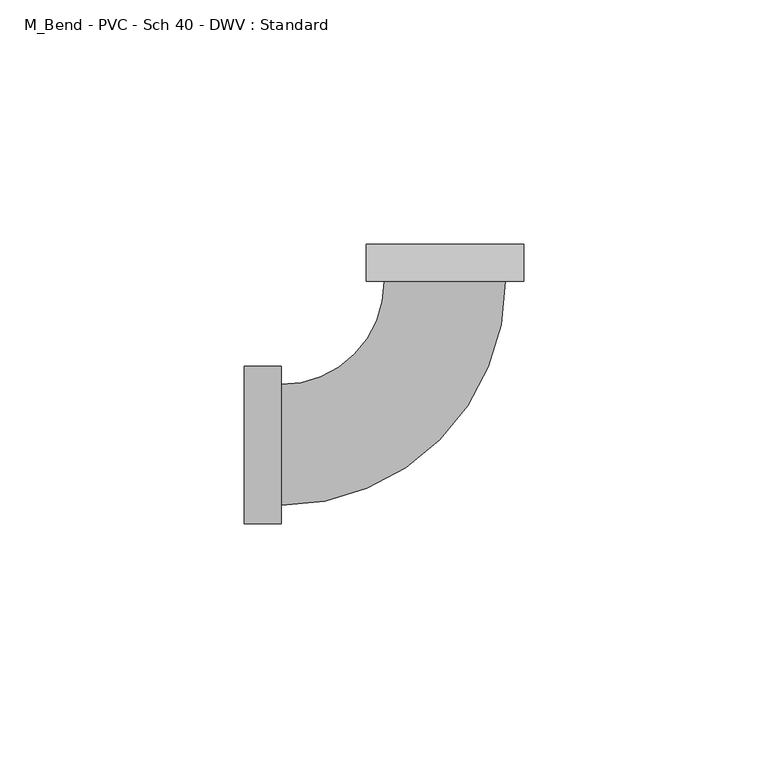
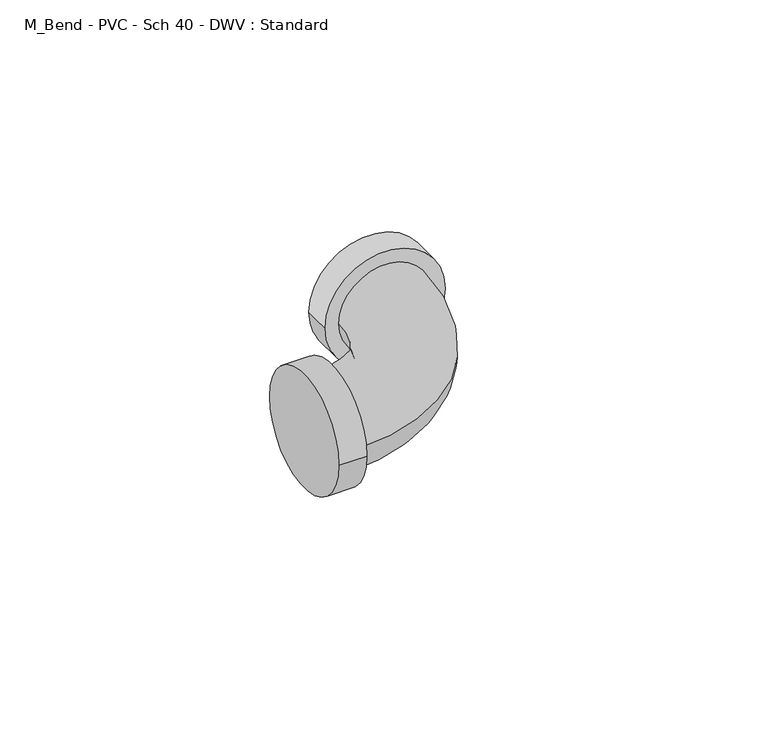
"""IFC4 building model written with IfcOpenShell, lengths in millimetres: pipe fitting geometry, M_Bend - PVC - Sch 40 - DWV : Standard."""

from ifc_helpers import new_model, si_unit, point, frame, origin, place, context, project, spatial, circle_curve, ellipse_curve, trimmed, source, transform, mapped, element, save
from ifc_brep_helpers import plane_surface, cylinder_surface, revolved_surface, advanced_brep


def m_bend_pvc_sch_40_dwv_standard_6ee9e5fe(model_context):
    return source(origin(), model_context, "Body", "AdvancedBrep", [
        advanced_brep(
        [(-41.0140625, -16.0871094, 0.0), (-41.0140625, 16.0871094, 0.0), (-33.5140625, -16.0871094, 0.0), (-33.5140625, 16.0871094, 0.0), (-33.5140625, -12.3640625, 0.0), (-33.5140625, 12.3640625, 0.0), (-12.3651423, 33.5136641, 0.0), (12.3629827, 33.5144608, 0.0), (16.0860296, 33.5145808, 0.0), (-16.0881892, 33.5135442, 0.0), (16.0857879, 41.0145808, 0.0), (-16.0884308, 41.0135442, 0.0)],
        [
            (0, 1, circle_curve(frame((-41.0140625, 0.0, 0.0), z_axis=(-1.0, 0.0, 0.0), x_axis=(0.0, 1.0, 0.0)), 16.0871094)),
            (1, 0, circle_curve(frame((-41.0140625, 0.0, 0.0), z_axis=(-1.0, 0.0, 0.0), x_axis=(0.0, 1.0, 0.0)), 16.0871094)),
            (2, 3, circle_curve(frame((-33.5140625, 0.0, 0.0), z_axis=(1.0, 0.0, 0.0), x_axis=(0.0, 1.0, 0.0)), 16.0871094)),
            (3, 2, circle_curve(frame((-33.5140625, 0.0, 0.0), z_axis=(1.0, 0.0, 0.0), x_axis=(0.0, 1.0, 0.0)), 16.0871094)),
            (4, 5, circle_curve(frame((-33.5140625, 0.0, 0.0), z_axis=(-1.0, 0.0, 0.0), x_axis=(0.0, 1.0, 0.0)), 12.3640625)),
            (5, 4, circle_curve(frame((-33.5140625, 0.0, 0.0), z_axis=(-1.0, 0.0, 0.0), x_axis=(0.0, 1.0, 0.0)), 12.3640625)),
            (0, 2),
            (3, 1),
            (6, 5, circle_curve(frame((-33.5140625, 33.5129827, 0.0), z_axis=(0.0, 0.0, -1.0), x_axis=(0.0, -1.0, 0.0)), 21.1489202)),
            (4, 7, circle_curve(frame((-33.5140625, 33.5129827, 0.0), z_axis=(0.0, 0.0, 1.0), x_axis=(0.0, -1.0, 0.0)), 45.8770452)),
            (7, 6, circle_curve(frame((-0.0010798, 33.5140625, 0.0), z_axis=(3.221886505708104e-05, -0.9999999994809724, 0.0), x_axis=(-0.9999999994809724, -3.221886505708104e-05, 0.0)), 12.3640625)),
            (6, 7, circle_curve(frame((-0.0010798, 33.5140625, 0.0), z_axis=(3.221886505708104e-05, -0.9999999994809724, 0.0), x_axis=(-0.9999999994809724, -3.221886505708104e-05, 0.0)), 12.3640625)),
            (8, 9, circle_curve(frame((-0.0010798, 33.5140625, 0.0), z_axis=(3.221886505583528e-05, -0.9999999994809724, 0.0), x_axis=(-0.9999999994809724, -3.221886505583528e-05, 0.0)), 16.0871094)),
            (9, 8, circle_curve(frame((-0.0010798, 33.5140625, 0.0), z_axis=(3.221886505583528e-05, -0.9999999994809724, 0.0), x_axis=(-0.9999999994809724, -3.221886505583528e-05, 0.0)), 16.0871094)),
            (10, 11, circle_curve(frame((-0.0013214, 41.0140625, 0.0), z_axis=(-3.221886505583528e-05, 0.9999999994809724, 0.0), x_axis=(-0.9999999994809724, -3.221886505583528e-05, 0.0)), 16.0871094)),
            (11, 10, circle_curve(frame((-0.0013214, 41.0140625, 0.0), z_axis=(-3.221886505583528e-05, 0.9999999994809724, 0.0), x_axis=(-0.9999999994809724, -3.221886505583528e-05, 0.0)), 16.0871094)),
            (8, 10),
            (11, 9),
        ],
        [
            plane_surface(frame((-41.0140625, 0.0, 0.0), z_axis=(-1.0, 0.0, 0.0), x_axis=(0.0, 0.0, 1.0))),
            plane_surface(frame((-33.5140625, 0.0, 0.0), z_axis=(1.0, 0.0, 0.0), x_axis=(0.0, 0.0, 1.0))),
            cylinder_surface(frame((-41.0140625, 0.0, 0.0), z_axis=(-1.0, 0.0, 0.0), x_axis=(0.0, 1.0, 0.0)), 16.0871094),
            revolved_surface(trimmed(ellipse_curve(frame((-33.5140625, 0.0, 0.0), z_axis=(-1.0, 0.0, 0.0), x_axis=(0.0, 1.0, 0.0)), 12.3640625, 12.3640625), [point((-33.5140625, -12.3640625, 0.0))], [point((-33.5140625, 12.3640625, 0.0))], True, "CARTESIAN"), (-33.5140625, 33.5129827, 0.0), (0.0, 0.0, 1.0)),
            revolved_surface(trimmed(ellipse_curve(frame((-33.5140625, 0.0, 0.0), z_axis=(-1.0, 0.0, 0.0), x_axis=(0.0, 1.0, 0.0)), 12.3640625, 12.3640625), [point((-33.5140625, 12.3640625, 0.0))], [point((-33.5140625, -12.3640625, 0.0))], True, "CARTESIAN"), (-33.5140625, 33.5129827, 0.0), (0.0, 0.0, 1.0)),
            plane_surface(frame((-0.0010798, 33.5140625, 0.0), z_axis=(3.2218865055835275e-05, -0.9999999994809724, 0.0), x_axis=(0.0, 0.0, 1.0))),
            plane_surface(frame((-0.0013214, 41.0140625, 0.0), z_axis=(-3.2218865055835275e-05, 0.9999999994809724, 0.0), x_axis=(0.0, 0.0, 1.0))),
            cylinder_surface(frame((-0.0010798, 33.5140625, 0.0), z_axis=(3.221886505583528e-05, -0.9999999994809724, 0.0), x_axis=(-0.9999999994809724, -3.221886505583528e-05, 0.0)), 16.0871094),
        ],
        [
            (0, [[1, 2]]),
            (1, [[3, 4], [5, 6]]),
            (2, [[-1, 7, -4, 8]]),
            (2, [[-2, -8, -3, -7]]),
            (3, [[9, -5, 10, 11]]),
            (4, [[-9, 12, -10, -6]]),
            (5, [[13, 14], [-11, -12]]),
            (6, [[15, 16]]),
            (7, [[-13, 17, -16, 18]]),
            (7, [[-14, -18, -15, -17]]),
        ],
    ),
    ])


if __name__ == "__main__":
    model = new_model("IFC4")
    model_context = context("Model", 3, world=origin())
    ifc_project = project(units=[si_unit("LENGTHUNIT", "METRE", prefix="MILLI")], contexts=[model_context])
    site = spatial("IfcSite", under=ifc_project)
    building = spatial("IfcBuilding", under=site)
    placement = place(None, origin())
    m_bend_pvc_sch_40_dwv_standard_shape = m_bend_pvc_sch_40_dwv_standard_6ee9e5fe(model_context)
    element("IfcPipeFitting", 1, ObjectType="M_Bend - PVC - Sch 40 - DWV : Standard", at=placement, inside=building, context=model_context, shape_type="MappedRepresentation", body=[
        mapped(m_bend_pvc_sch_40_dwv_standard_shape, transform((0.0, 0.0, 0.0), x_axis=(1.0, 0.0, 0.0), y_axis=(0.0, 1.0, 0.0), z_axis=(0.0, 0.0, 1.0))),
    ])
    save(model, "model.ifc")
